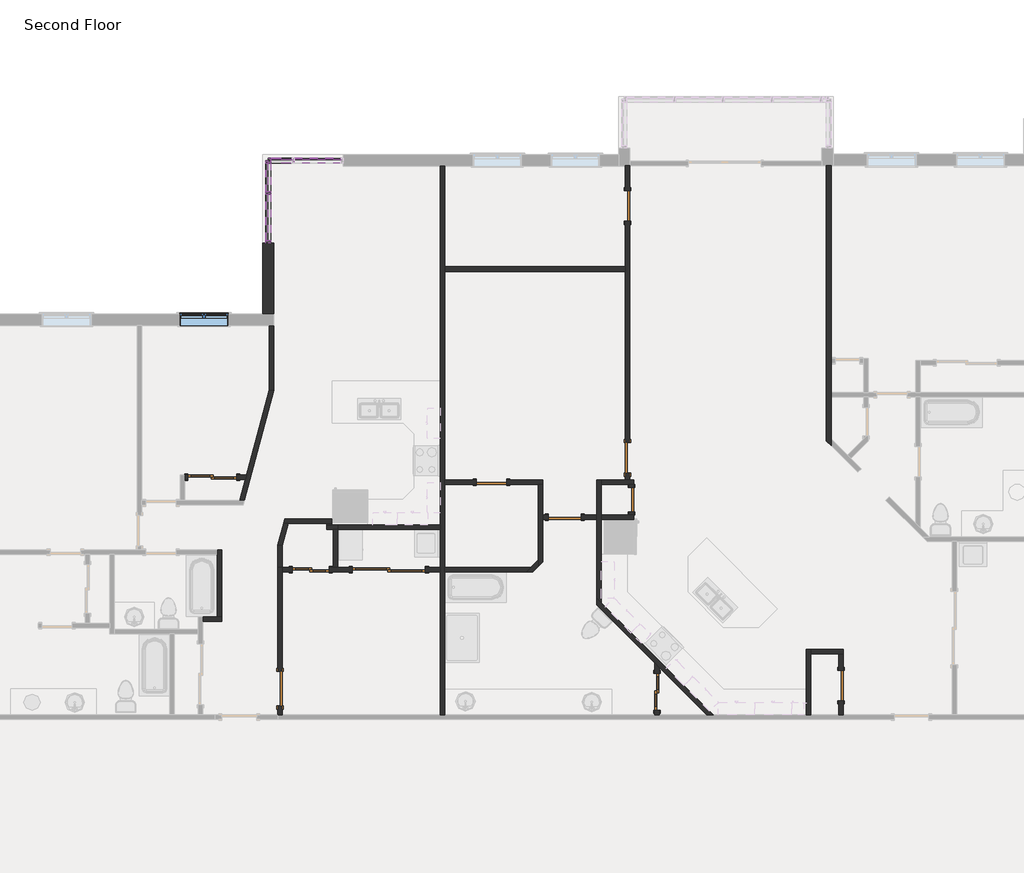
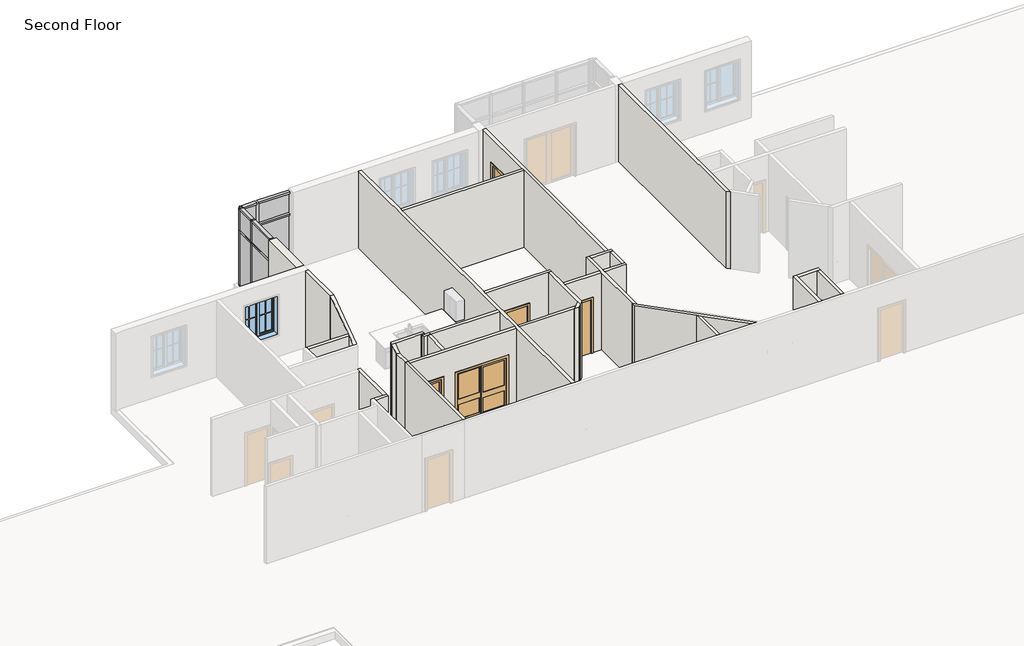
# One storey, part 9 of 17: 32 walls, 19 members, 11 doors, 8 plates, 1 window.
"""IFC4 building model written with IfcOpenShell, lengths in millimetres."""

from ifc_helpers import new_model, si_unit, frame, origin, place, context, project, spatial, polyline, outline, extrude, faceted_brep, transform, mapped, element, save
from components import door_e2285e44, door_d8f5dbb5, door_f2b275c1, door_d141acb4, door_c29894e6, door_88c23cd7, door_900f836f, door_caaf2a11, rectangular_mullion_rectangular_mullion_1_fa3625a1, rectangular_mullion_rectangular_mullion_1_7cbf0b94, rectangular_mullion_rectangular_mullion_1_a50b3cda, rectangular_mullion_rectangular_mullion_1_5cd4c5ac, rectangular_mullion_rectangular_mullion_1_6186cc23, rectangular_mullion_rectangular_mullion_1_049a2e78, rectangular_mullion_rectangular_mullion_1_13524bf9, rectangular_mullion_rectangular_mullion_1_a1888574, rectangular_mullion_rectangular_mullion_1_55d4f6ce, rectangular_mullion_rectangular_mullion_1_d8cc73e0, system_panel_glazed_0ed27d1d, system_panel_glazed_134bacdb, system_panel_glazed_53e6f9fb, system_panel_glazed_cb820e14, system_panel_glazed_7c98c5cb, system_panel_glazed_dc3c0d95, system_panel_glazed_bae44e10, system_panel_glazed_9feb64c3, window_33528cc2

model = new_model("IFC4")

# Units and contexts
model_context = context("Model", 3, world=origin())
ifc_project = project(units=[si_unit("LENGTHUNIT", "METRE", prefix="MILLI")], contexts=[model_context])

# Site, building, storey
site = spatial("IfcSite", under=ifc_project)
building = spatial("IfcBuilding", under=site)
storey = spatial("IfcBuildingStorey", under=building, Name="Second Floor", Elevation=3048.0)

# Doors
placement = place(None, origin())
door_shape = door_e2285e44(model_context)
element("IfcDoor", 1, ObjectType="Single-Flush : 24\" x 80\"", at=placement, inside=storey, context=model_context, shape_type="MappedRepresentation", body=[
    mapped(door_shape, transform((26745.480585, 7734.3572102, 3048.0), x_axis=(0.0, 1.0, 0.0), y_axis=(-1.0, 0.0, 0.0), z_axis=(0.0, 0.0, 1.0))),
])
door_2_shape = door_d8f5dbb5(model_context)
element("IfcDoor", 2, ObjectType="Single-Flush : 30\" x 80\"", at=placement, inside=storey, context=model_context, shape_type="MappedRepresentation", body=[
    mapped(door_2_shape, transform((23246.1202044, 8168.006996, 3048.0), x_axis=(-1.0, 0.0, 0.0), y_axis=(0.0, -1.0, 0.0), z_axis=(0.0, 0.0, 1.0))),
])
element("IfcDoor", 3, ObjectType="Single-Flush : 30\" x 80\"", at=placement, inside=storey, context=model_context, shape_type="MappedRepresentation", body=[
    mapped(door_2_shape, transform((31977.0076897, 3089.6091714, 3048.0), x_axis=(0.0, -1.0, 0.0), y_axis=(1.0, 0.0, 0.0), z_axis=(0.0, 0.0, 1.0))),
])
door_3_shape = door_f2b275c1(model_context)
element("IfcDoor", 4, ObjectType="Single-Flush : 30\" x 80\"", at=placement, inside=storey, context=model_context, shape_type="MappedRepresentation", body=[
    mapped(door_3_shape, transform((26645.8573571, 8777.606996, 3048.0), x_axis=(0.0, -1.0, 0.0), y_axis=(1.0, 0.0, 0.0), z_axis=(0.0, 0.0, 1.0))),
])
element("IfcDoor", 5, ObjectType="Single-Flush : 30\" x 80\"", at=placement, inside=storey, context=model_context, shape_type="MappedRepresentation", body=[
    mapped(door_3_shape, transform((26645.8573571, 15067.4365339, 3048.0), x_axis=(0.0, 1.0, 0.0), y_axis=(-1.0, 0.0, 0.0), z_axis=(0.0, 0.0, 1.0))),
])
door_4_shape = door_d141acb4(model_context)
element("IfcDoor", 6, ObjectType="Single-Flush : 32\" x 84\"", at=placement, inside=storey, context=model_context, shape_type="MappedRepresentation", body=[
    mapped(door_4_shape, transform((25078.7830518, 7300.7074244, 3048.0), x_axis=(-1.0, 0.0, 0.0), y_axis=(0.0, -1.0, 0.0), z_axis=(0.0, 0.0, 1.0))),
])
door_5_shape = door_c29894e6(model_context)
element("IfcDoor", 7, ObjectType="Single-Flush : 34\" x 80\"", at=placement, inside=storey, context=model_context, shape_type="MappedRepresentation", body=[
    mapped(door_5_shape, transform((17970.6993195, 3013.4091714, 3048.0), x_axis=(0.0, -1.0, 0.0), y_axis=(1.0, 0.0, 0.0), z_axis=(0.0, 0.0, 1.0))),
])
door_6_shape = door_88c23cd7(model_context)
element("IfcDoor", 8, ObjectType="Sliding-Closet : 36\" x 80\"", at=placement, inside=storey, context=model_context, shape_type="MappedRepresentation", body=[
    mapped(door_6_shape, transform((18737.6267988, 6113.0380642, 3048.0), x_axis=(-1.0, 0.0, 0.0), y_axis=(0.0, -1.0, 0.0), z_axis=(0.0, 0.0, 1.0))),
])
element("IfcDoor", 9, ObjectType="Sliding-Closet : 36\" x 80\"", at=placement, inside=storey, context=model_context, shape_type="MappedRepresentation", body=[
    mapped(door_6_shape, transform((27511.15388, 2937.2091714, 3048.0), x_axis=(0.0, 1.0, 0.0), y_axis=(-1.0, 0.0, 0.0), z_axis=(0.0, 0.0, 1.0))),
])
door_7_shape = door_900f836f(model_context)
element("IfcDoor", 10, ObjectType="Sliding-Closet : 48\" x 80\"", at=placement, inside=storey, context=model_context, shape_type="MappedRepresentation", body=[
    mapped(door_7_shape, transform((16278.4083594, 8170.5576127, 3048.0), x_axis=(1.0, 0.0, 0.0), y_axis=(0.0, 1.0, 0.0), z_axis=(0.0, 0.0, 1.0))),
])
door_8_shape = door_caaf2a11(model_context)
element("IfcDoor", 11, ObjectType="Sliding-Closet : 72\" x 80\"", at=placement, inside=storey, context=model_context, shape_type="MappedRepresentation", body=[
    mapped(door_8_shape, transform((20687.6058176, 6113.0380642, 3048.0), x_axis=(-1.0, 0.0, 0.0), y_axis=(0.0, -1.0, 0.0), z_axis=(0.0, 0.0, 1.0))),
])

# Members
rectangular_mullion_rectangular_mullion_1_shape = rectangular_mullion_rectangular_mullion_1_fa3625a1(model_context)
element("IfcMember", 12, ObjectType="Rectangular Mullion : Rectangular Mullion 1", at=placement, inside=storey, context=model_context, shape_type="MappedRepresentation", body=[
    mapped(rectangular_mullion_rectangular_mullion_1_shape, transform((18332.1198568, 16206.4791823, 6096.0), x_axis=(0.0, 0.0, 1.0), y_axis=(0.0, 1.0, 0.0), z_axis=(-1.0, 0.0, 0.0))),
])
rectangular_mullion_rectangular_mullion_1_2_shape = rectangular_mullion_rectangular_mullion_1_7cbf0b94(model_context)
element("IfcMember", 13, ObjectType="Rectangular Mullion : Rectangular Mullion 1", at=placement, inside=storey, context=model_context, shape_type="MappedRepresentation", body=[
    mapped(rectangular_mullion_rectangular_mullion_1_2_shape, transform((18332.1198568, 16206.4791823, 5213.35), x_axis=(0.0, 0.0, 1.0), y_axis=(0.0, 1.0, 0.0), z_axis=(-1.0, 0.0, 0.0))),
])
rectangular_mullion_rectangular_mullion_1_3_shape = rectangular_mullion_rectangular_mullion_1_a50b3cda(model_context)
element("IfcMember", 14, ObjectType="Rectangular Mullion : Rectangular Mullion 1", at=placement, inside=storey, context=model_context, shape_type="MappedRepresentation", body=[
    mapped(rectangular_mullion_rectangular_mullion_1_3_shape, transform((17678.8246608, 16206.4791823, 3048.0), x_axis=(-1.0, 0.0, 0.0), y_axis=(0.0, 1.0, 0.0), z_axis=(0.0, 0.0, -1.0))),
])
rectangular_mullion_rectangular_mullion_1_4_shape = rectangular_mullion_rectangular_mullion_1_5cd4c5ac(model_context)
element("IfcMember", 15, ObjectType="Rectangular Mullion : Rectangular Mullion 1", at=placement, inside=storey, context=model_context, shape_type="MappedRepresentation", body=[
    mapped(rectangular_mullion_rectangular_mullion_1_4_shape, transform((17678.8246608, 16206.4791823, 5213.35), x_axis=(-1.0, 0.0, 0.0), y_axis=(0.0, 1.0, 0.0), z_axis=(0.0, 0.0, -1.0))),
])
element("IfcMember", 16, ObjectType="Rectangular Mullion : Rectangular Mullion 1", at=placement, inside=storey, context=model_context, shape_type="MappedRepresentation", body=[
    mapped(rectangular_mullion_rectangular_mullion_1_shape, transform((17678.8246608, 15365.3662252, 6096.0), x_axis=(0.0, 0.0, 1.0), y_axis=(1.0, 0.0, 0.0), z_axis=(0.0, 1.0, 0.0))),
])
element("IfcMember", 17, ObjectType="Rectangular Mullion : Rectangular Mullion 1", at=placement, inside=storey, context=model_context, shape_type="MappedRepresentation", body=[
    mapped(rectangular_mullion_rectangular_mullion_1_shape, transform((17678.8246608, 14209.6662249, 3048.0), x_axis=(0.0, 0.0, -1.0), y_axis=(1.0, 0.0, 0.0), z_axis=(0.0, -1.0, 0.0))),
])
element("IfcMember", 18, ObjectType="Rectangular Mullion : Rectangular Mullion 1", at=placement, inside=storey, context=model_context, shape_type="MappedRepresentation", body=[
    mapped(rectangular_mullion_rectangular_mullion_1_3_shape, transform((17678.8246608, 16206.4791823, 3048.0), x_axis=(0.0, 1.0, 0.0), y_axis=(1.0, 0.0, 0.0), z_axis=(0.0, 0.0, -1.0))),
])
element("IfcMember", 19, ObjectType="Rectangular Mullion : Rectangular Mullion 1", at=placement, inside=storey, context=model_context, shape_type="MappedRepresentation", body=[
    mapped(rectangular_mullion_rectangular_mullion_1_4_shape, transform((17678.8246608, 16206.4791823, 5213.35), x_axis=(0.0, 1.0, 0.0), y_axis=(1.0, 0.0, 0.0), z_axis=(0.0, 0.0, -1.0))),
])
element("IfcMember", 20, ObjectType="Rectangular Mullion : Rectangular Mullion 1", at=placement, inside=storey, context=model_context, shape_type="MappedRepresentation", body=[
    mapped(rectangular_mullion_rectangular_mullion_1_4_shape, transform((17678.8246608, 14146.1662249, 6096.0), x_axis=(0.0, -1.0, 0.0), y_axis=(1.0, 0.0, 0.0), z_axis=(0.0, 0.0, 1.0))),
])
element("IfcMember", 21, ObjectType="Rectangular Mullion : Rectangular Mullion 1", at=placement, inside=storey, context=model_context, shape_type="MappedRepresentation", body=[
    mapped(rectangular_mullion_rectangular_mullion_1_3_shape, transform((17678.8246608, 14146.1662249, 5213.35), x_axis=(0.0, -1.0, 0.0), y_axis=(1.0, 0.0, 0.0), z_axis=(0.0, 0.0, 1.0))),
])
element("IfcMember", 22, ObjectType="Rectangular Mullion : Rectangular Mullion 1", at=placement, inside=storey, context=model_context, shape_type="MappedRepresentation", body=[
    mapped(rectangular_mullion_rectangular_mullion_1_2_shape, transform((17678.8246608, 15365.3662252, 5213.35), x_axis=(0.0, 0.0, 1.0), y_axis=(1.0, 0.0, 0.0), z_axis=(0.0, 1.0, 0.0))),
])
rectangular_mullion_rectangular_mullion_1_5_shape = rectangular_mullion_rectangular_mullion_1_6186cc23(model_context)
element("IfcMember", 23, ObjectType="Rectangular Mullion : Rectangular Mullion 1", at=placement, inside=storey, context=model_context, shape_type="MappedRepresentation", body=[
    mapped(rectangular_mullion_rectangular_mullion_1_5_shape, transform((17678.8246608, 15397.1162252, 3048.0), x_axis=(0.0, 1.0, 0.0), y_axis=(1.0, 0.0, 0.0), z_axis=(0.0, 0.0, -1.0))),
])
rectangular_mullion_rectangular_mullion_1_6_shape = rectangular_mullion_rectangular_mullion_1_049a2e78(model_context)
element("IfcMember", 24, ObjectType="Rectangular Mullion : Rectangular Mullion 1", at=placement, inside=storey, context=model_context, shape_type="MappedRepresentation", body=[
    mapped(rectangular_mullion_rectangular_mullion_1_6_shape, transform((17678.8246608, 15397.1162252, 5213.35), x_axis=(0.0, 1.0, 0.0), y_axis=(1.0, 0.0, 0.0), z_axis=(0.0, 0.0, -1.0))),
])
rectangular_mullion_rectangular_mullion_1_7_shape = rectangular_mullion_rectangular_mullion_1_13524bf9(model_context)
element("IfcMember", 25, ObjectType="Rectangular Mullion : Rectangular Mullion 1", at=placement, inside=storey, context=model_context, shape_type="MappedRepresentation", body=[
    mapped(rectangular_mullion_rectangular_mullion_1_7_shape, transform((17678.8246608, 16142.9791823, 6096.0), x_axis=(0.0, 0.0, 1.0), y_axis=(1.0, 0.0, 0.0), z_axis=(0.0, 1.0, 0.0))),
])
element("IfcMember", 26, ObjectType="Rectangular Mullion : Rectangular Mullion 1", at=placement, inside=storey, context=model_context, shape_type="MappedRepresentation", body=[
    mapped(rectangular_mullion_rectangular_mullion_1_7_shape, transform((17678.8246608, 15428.8662252, 3048.0), x_axis=(0.0, 0.0, -1.0), y_axis=(1.0, 0.0, 0.0), z_axis=(0.0, -1.0, 0.0))),
])
rectangular_mullion_rectangular_mullion_1_8_shape = rectangular_mullion_rectangular_mullion_1_a1888574(model_context)
element("IfcMember", 27, ObjectType="Rectangular Mullion : Rectangular Mullion 1", at=placement, inside=storey, context=model_context, shape_type="MappedRepresentation", body=[
    mapped(rectangular_mullion_rectangular_mullion_1_8_shape, transform((17678.8246608, 16142.9791823, 5213.35), x_axis=(0.0, 0.0, 1.0), y_axis=(1.0, 0.0, 0.0), z_axis=(0.0, 1.0, 0.0))),
])
rectangular_mullion_rectangular_mullion_1_9_shape = rectangular_mullion_rectangular_mullion_1_55d4f6ce(model_context)
element("IfcMember", 28, ObjectType="Rectangular Mullion : Rectangular Mullion 1", at=placement, inside=storey, context=model_context, shape_type="MappedRepresentation", body=[
    mapped(rectangular_mullion_rectangular_mullion_1_9_shape, transform((17742.3246608, 16206.4791823, 6096.0), x_axis=(0.0, 0.0, 1.0), y_axis=(0.0, 1.0, 0.0), z_axis=(-1.0, 0.0, 0.0))),
])
element("IfcMember", 29, ObjectType="Rectangular Mullion : Rectangular Mullion 1", at=placement, inside=storey, context=model_context, shape_type="MappedRepresentation", body=[
    mapped(rectangular_mullion_rectangular_mullion_1_9_shape, transform((18268.6198568, 16206.4791823, 3048.0), x_axis=(0.0, 0.0, -1.0), y_axis=(0.0, 1.0, 0.0), z_axis=(1.0, 0.0, 0.0))),
])
rectangular_mullion_rectangular_mullion_1_10_shape = rectangular_mullion_rectangular_mullion_1_d8cc73e0(model_context)
element("IfcMember", 30, ObjectType="Rectangular Mullion : Rectangular Mullion 1", at=placement, inside=storey, context=model_context, shape_type="MappedRepresentation", body=[
    mapped(rectangular_mullion_rectangular_mullion_1_10_shape, transform((17742.3246608, 16206.4791823, 5213.35), x_axis=(0.0, 0.0, 1.0), y_axis=(0.0, 1.0, 0.0), z_axis=(-1.0, 0.0, 0.0))),
])

# Plates
system_panel_glazed_shape = system_panel_glazed_0ed27d1d(model_context)
element("IfcPlate", 31, ObjectType="System Panel : Glazed", at=placement, inside=storey, context=model_context, shape_type="MappedRepresentation", body=[
    mapped(system_panel_glazed_shape, transform((18909.969857, 16206.4791823, 3111.5), x_axis=(-1.0, 0.0, 0.0), y_axis=(0.0, -1.0, 0.0), z_axis=(0.0, 0.0, 1.0))),
])
system_panel_glazed_2_shape = system_panel_glazed_134bacdb(model_context)
element("IfcPlate", 32, ObjectType="System Panel : Glazed", at=placement, inside=storey, context=model_context, shape_type="MappedRepresentation", body=[
    mapped(system_panel_glazed_2_shape, transform((18909.969857, 16206.4791823, 5245.1), x_axis=(-1.0, 0.0, 0.0), y_axis=(0.0, -1.0, 0.0), z_axis=(0.0, 0.0, 1.0))),
])
system_panel_glazed_3_shape = system_panel_glazed_53e6f9fb(model_context)
element("IfcPlate", 33, ObjectType="System Panel : Glazed", at=placement, inside=storey, context=model_context, shape_type="MappedRepresentation", body=[
    mapped(system_panel_glazed_3_shape, transform((17678.8246608, 14787.5162251, 3111.5), x_axis=(0.0, 1.0, 0.0), y_axis=(-1.0, 0.0, 0.0), z_axis=(0.0, 0.0, 1.0))),
])
system_panel_glazed_4_shape = system_panel_glazed_cb820e14(model_context)
element("IfcPlate", 34, ObjectType="System Panel : Glazed", at=placement, inside=storey, context=model_context, shape_type="MappedRepresentation", body=[
    mapped(system_panel_glazed_4_shape, transform((17678.8246608, 14787.5162251, 5245.1), x_axis=(0.0, 1.0, 0.0), y_axis=(-1.0, 0.0, 0.0), z_axis=(0.0, 0.0, 1.0))),
])
system_panel_glazed_5_shape = system_panel_glazed_7c98c5cb(model_context)
element("IfcPlate", 35, ObjectType="System Panel : Glazed", at=placement, inside=storey, context=model_context, shape_type="MappedRepresentation", body=[
    mapped(system_panel_glazed_5_shape, transform((17678.8246608, 15785.9227038, 3111.5), x_axis=(0.0, 1.0, 0.0), y_axis=(-1.0, 0.0, 0.0), z_axis=(0.0, 0.0, 1.0))),
])
system_panel_glazed_6_shape = system_panel_glazed_dc3c0d95(model_context)
element("IfcPlate", 36, ObjectType="System Panel : Glazed", at=placement, inside=storey, context=model_context, shape_type="MappedRepresentation", body=[
    mapped(system_panel_glazed_6_shape, transform((17678.8246608, 15785.9227038, 5245.1), x_axis=(0.0, 1.0, 0.0), y_axis=(-1.0, 0.0, 0.0), z_axis=(0.0, 0.0, 1.0))),
])
system_panel_glazed_7_shape = system_panel_glazed_bae44e10(model_context)
element("IfcPlate", 37, ObjectType="System Panel : Glazed", at=placement, inside=storey, context=model_context, shape_type="MappedRepresentation", body=[
    mapped(system_panel_glazed_7_shape, transform((18005.4722588, 16206.4791823, 3111.5), x_axis=(-1.0, 0.0, 0.0), y_axis=(0.0, -1.0, 0.0), z_axis=(0.0, 0.0, 1.0))),
])
system_panel_glazed_8_shape = system_panel_glazed_9feb64c3(model_context)
element("IfcPlate", 38, ObjectType="System Panel : Glazed", at=placement, inside=storey, context=model_context, shape_type="MappedRepresentation", body=[
    mapped(system_panel_glazed_8_shape, transform((18005.4722588, 16206.4791823, 5245.1), x_axis=(-1.0, 0.0, 0.0), y_axis=(0.0, -1.0, 0.0), z_axis=(0.0, 0.0, 1.0))),
])

# Walls
element("IfcWall", 39, ObjectType="Exterior - Brick on Wood Stud", at=placement, inside=storey, context=model_context, shape_type="SweptSolid", body=[
    extrude(outline(polyline([(17537.5371608, 12370.2302849), (17537.5371608, 14146.1662249), (17820.1121608, 14146.1662249), (17820.1121608, 12370.2302849), (17537.5371608, 12370.2302849)])), frame((0.0, 0.0, 3048.0), z_axis=(0.0, 0.0, 1.0), x_axis=(1.0, 0.0, 0.0)), (0.0, 0.0, 1.0), 3048.0),
])
element("IfcWall", 40, ObjectType="Interior - 4 1/2\" Partition", at=placement, inside=storey, context=model_context, shape_type="Brep", body=[
    faceted_brep([(22080.2073571, 2359.3591714, 3048.0), (22080.2073571, 5928.8880642, 3048.0), (22080.2073571, 6043.1880642, 3048.0), (22080.2073571, 8110.856996, 3048.0), (22080.2073571, 8225.156996, 3048.0), (22080.2073571, 13435.7238431, 3048.0), (22080.2073571, 13550.0238431, 3048.0), (22080.2073571, 16065.1916823, 3048.0), (22080.2073571, 16065.1916823, 6096.0), (22080.2073571, 13550.0238431, 6096.0), (22080.2073571, 13435.7238431, 6096.0), (22080.2073571, 8225.156996, 6096.0), (22080.2073571, 8110.856996, 6096.0), (22080.2073571, 6043.1880642, 6096.0), (22080.2073571, 5928.8880642, 6096.0), (22080.2073571, 2359.3591714, 6096.0), (21965.9073571, 2359.3591714, 3048.0), (21965.9073571, 2359.3591714, 6096.0), (21965.9073571, 5928.8880642, 6096.0), (21965.9073571, 6043.1880642, 6096.0), (21965.9073571, 6988.905075, 6096.0), (21965.9073571, 7103.205075, 6096.0), (21965.9073571, 16065.1916823, 6096.0), (21965.9073571, 16065.1916823, 3048.0), (21965.9073571, 7103.205075, 3048.0), (21965.9073571, 6988.905075, 3048.0), (21965.9073571, 6043.1880642, 3048.0), (21965.9073571, 5928.8880642, 3048.0)], [[[0, 1, 2, 3, 4, 5, 6, 7, 8, 9, 10, 11, 12, 13, 14, 15]], [[16, 17, 18, 19, 20, 21, 22, 23, 24, 25, 26, 27]], [[7, 6, 5, 4, 3, 2, 1, 0, 16, 27, 26, 25, 24, 23]], [[15, 14, 13, 12, 11, 10, 9, 8, 22, 21, 20, 19, 18, 17]], [[0, 15, 17, 16]], [[8, 7, 23, 22]]]),
])
element("IfcWall", 41, ObjectType="Interior - 4 1/2\" Partition", at=placement, inside=storey, context=model_context, shape_type="Brep", body=[
    faceted_brep([(31724.597822, 9089.3944324, 3048.0), (31724.597822, 9251.0390425, 3048.0), (31724.597822, 10300.8410099, 3048.0), (31724.597822, 10415.1410099, 3048.0), (31724.597822, 11149.7238431, 3048.0), (31724.597822, 11264.0238431, 3048.0), (31724.597822, 16077.0865339, 3048.0), (31724.597822, 16077.0865339, 6096.0), (31724.597822, 11264.0238431, 6096.0), (31724.597822, 11149.7238431, 6096.0), (31724.597822, 10415.1410099, 6096.0), (31724.597822, 10300.8410099, 6096.0), (31724.597822, 9251.0390425, 6096.0), (31724.597822, 9089.3944324, 6096.0), (31610.297822, 9203.6944324, 3048.0), (31610.297822, 9203.6944324, 6096.0), (31610.297822, 16077.0865339, 6096.0), (31610.297822, 16077.0865339, 3048.0)], [[[0, 1, 2, 3, 4, 5, 6, 7, 8, 9, 10, 11, 12, 13]], [[14, 15, 16, 17]], [[6, 5, 4, 3, 2, 1, 0, 14, 17]], [[13, 12, 11, 10, 9, 8, 7, 16, 15]], [[0, 13, 15, 14]], [[7, 6, 17, 16]]]),
])
element("IfcWall", 42, ObjectType="Interior - 4 1/2\" Partition", at=placement, inside=storey, context=model_context, shape_type="SweptSolid", body=[
    extrude(outline(polyline([(26588.7073571, 13435.7238431), (22080.2073571, 13435.7238431), (22080.2073571, 13550.0238431), (26588.7073571, 13550.0238431), (26588.7073571, 13435.7238431)])), frame((0.0, 0.0, 3048.0), z_axis=(0.0, 0.0, 1.0), x_axis=(1.0, 0.0, 0.0)), (0.0, 0.0, 1.0), 3048.0),
])
element("IfcWall", 43, ObjectType="Interior - 4 1/2\" Partition", at=placement, inside=storey, context=model_context, shape_type="Brep", body=[
    faceted_brep([(26703.0073571, 15448.4365339, 5080.0), (26703.0073571, 15448.4365339, 3048.0), (26703.0073571, 16077.0865339, 3048.0), (26703.0073571, 16077.0865339, 6096.0), (26703.0073571, 8225.156996, 6096.0), (26703.0073571, 8225.156996, 3048.0), (26703.0073571, 8396.606996, 3048.0), (26703.0073571, 8396.606996, 5080.0), (26703.0073571, 9158.606996, 5080.0), (26703.0073571, 9158.606996, 3048.0), (26703.0073571, 14686.4365339, 3048.0), (26703.0073571, 14686.4365339, 5080.0), (26588.7073571, 16077.0865339, 3048.0), (26588.7073571, 15448.4365339, 3048.0), (26588.7073571, 15448.4365339, 5080.0), (26588.7073571, 14686.4365339, 5080.0), (26588.7073571, 14686.4365339, 3048.0), (26588.7073571, 13550.0238431, 3048.0), (26588.7073571, 13435.7238431, 3048.0), (26588.7073571, 9158.606996, 3048.0), (26588.7073571, 9158.606996, 5080.0), (26588.7073571, 8396.606996, 5080.0), (26588.7073571, 8396.606996, 3048.0), (26588.7073571, 8225.156996, 3048.0), (26588.7073571, 8225.156996, 6096.0), (26588.7073571, 13435.7238431, 6096.0), (26588.7073571, 13550.0238431, 6096.0), (26588.7073571, 16077.0865339, 6096.0)], [[[0, 1, 2, 3, 4, 5, 6, 7, 8, 9, 10, 11]], [[12, 13, 14, 15, 16, 17, 18, 19, 20, 21, 22, 23, 24, 25, 26, 27]], [[23, 22, 6, 5]], [[10, 9, 19, 18, 17, 16]], [[2, 1, 13, 12]], [[4, 3, 27, 26, 25, 24]], [[7, 6, 22, 21]], [[8, 7, 21, 20]], [[9, 8, 20, 19]], [[14, 13, 1, 0]], [[15, 14, 0, 11]], [[16, 15, 11, 10]], [[5, 4, 24, 23]], [[3, 2, 12, 27]]]),
])
element("IfcWall", 44, ObjectType="Interior - 4 1/2\" Partition", at=placement, inside=storey, context=model_context, shape_type="Brep", body=[
    faceted_brep([(25879.20388, 5101.9499009, 3048.0), (27327.00388, 3654.1499009, 3048.0), (27441.30388, 3539.8499009, 3048.0), (28621.7946095, 2359.3591714, 3048.0), (28621.7946095, 2359.3591714, 6096.0), (27441.30388, 3539.8499009, 6096.0), (27327.00388, 3654.1499009, 6096.0), (25879.20388, 5101.9499009, 6096.0), (25879.20388, 5263.5945111, 3048.0), (25879.20388, 5263.5945111, 6096.0), (25993.50388, 5149.2945111, 6096.0), (28783.4392197, 2359.3591714, 6096.0), (28783.4392197, 2359.3591714, 3048.0), (25993.50388, 5149.2945111, 3048.0)], [[[0, 1, 2, 3, 4, 5, 6, 7]], [[8, 9, 10, 11, 12, 13]], [[3, 2, 1, 0, 8, 13, 12]], [[7, 6, 5, 4, 11, 10, 9]], [[0, 7, 9, 8]], [[4, 3, 12, 11]]]),
])
element("IfcWall", 45, ObjectType="Interior - 4 1/2\" Partition", at=placement, inside=storey, context=model_context, shape_type="Brep", body=[
    faceted_brep([(25879.20388, 8225.156996, 3048.0), (25879.20388, 7357.8574244, 3048.0), (25879.20388, 7243.5574244, 3048.0), (25879.20388, 5263.5945111, 3048.0), (25879.20388, 5263.5945111, 6096.0), (25879.20388, 7243.5574244, 6096.0), (25879.20388, 7357.8574244, 6096.0), (25879.20388, 8225.156996, 6096.0), (25993.50388, 8225.156996, 3048.0), (25993.50388, 8225.156996, 6096.0), (25993.50388, 8110.856996, 6096.0), (25993.50388, 7357.8574244, 6096.0), (25993.50388, 7243.5574244, 6096.0), (25993.50388, 5149.2945111, 6096.0), (25993.50388, 5149.2945111, 3048.0), (25993.50388, 7243.5574244, 3048.0), (25993.50388, 7357.8574244, 3048.0), (25993.50388, 8110.856996, 3048.0)], [[[0, 1, 2, 3, 4, 5, 6, 7]], [[8, 9, 10, 11, 12, 13, 14, 15, 16, 17]], [[3, 2, 1, 0, 8, 17, 16, 15, 14]], [[7, 6, 5, 4, 13, 12, 11, 10, 9]], [[0, 7, 9, 8]], [[4, 3, 14, 13]]]),
])
element("IfcWall", 46, ObjectType="Interior - 4 1/2\" Partition", at=placement, inside=storey, context=model_context, shape_type="Brep", body=[
    faceted_brep([(26802.630585, 8225.156996, 3048.0), (26703.0073571, 8225.156996, 3048.0), (26588.7073571, 8225.156996, 3048.0), (25993.50388, 8225.156996, 3048.0), (25993.50388, 8225.156996, 6096.0), (26588.7073571, 8225.156996, 6096.0), (26703.0073571, 8225.156996, 6096.0), (26802.630585, 8225.156996, 6096.0), (26802.630585, 8110.856996, 3048.0), (26802.630585, 8110.856996, 6096.0), (26688.330585, 8110.856996, 6096.0), (25993.50388, 8110.856996, 6096.0), (25993.50388, 8110.856996, 3048.0), (26688.330585, 8110.856996, 3048.0)], [[[0, 1, 2, 3, 4, 5, 6, 7]], [[8, 9, 10, 11, 12, 13]], [[3, 2, 1, 0, 8, 13, 12]], [[7, 6, 5, 4, 11, 10, 9]], [[0, 7, 9, 8]], [[4, 3, 12, 11]]]),
])
element("IfcWall", 47, ObjectType="Interior - 4 1/2\" Partition", at=placement, inside=storey, context=model_context, shape_type="Brep", body=[
    faceted_brep([(24672.3830518, 7243.5574244, 3048.0), (24672.3830518, 7243.5574244, 5181.6), (25485.1830518, 7243.5574244, 5181.6), (25485.1830518, 7243.5574244, 3048.0), (25879.20388, 7243.5574244, 3048.0), (25879.20388, 7243.5574244, 6096.0), (24526.3330518, 7243.5574244, 6096.0), (24526.3330518, 7243.5574244, 3048.0), (24672.3830518, 7357.8574244, 5181.6), (24672.3830518, 7357.8574244, 3048.0), (24526.3330518, 7357.8574244, 3048.0), (24526.3330518, 7357.8574244, 6096.0), (25879.20388, 7357.8574244, 6096.0), (25879.20388, 7357.8574244, 3048.0), (25485.1830518, 7357.8574244, 3048.0), (25485.1830518, 7357.8574244, 5181.6)], [[[0, 1, 2, 3, 4, 5, 6, 7]], [[8, 9, 10, 11, 12, 13, 14, 15]], [[9, 0, 7, 10]], [[3, 14, 13, 4]], [[11, 6, 5, 12]], [[1, 0, 9, 8]], [[2, 1, 8, 15]], [[3, 2, 15, 14]], [[7, 6, 11, 10]], [[5, 4, 13, 12]]]),
    faceted_brep([(26802.630585, 7243.5574244, 3048.0), (26802.630585, 7243.5574244, 6096.0), (25993.50388, 7243.5574244, 6096.0), (25993.50388, 7243.5574244, 3048.0), (26802.630585, 7357.8574244, 6096.0), (26802.630585, 7357.8574244, 3048.0), (26688.330585, 7357.8574244, 3048.0), (25993.50388, 7357.8574244, 3048.0), (25993.50388, 7357.8574244, 6096.0), (26688.330585, 7357.8574244, 6096.0)], [[[0, 1, 2, 3]], [[4, 5, 6, 7, 8, 9]], [[5, 0, 3, 7, 6]], [[1, 4, 9, 8, 2]], [[1, 0, 5, 4]], [[3, 2, 8, 7]]]),
])
element("IfcWall", 48, ObjectType="Interior - 4 1/2\" Partition", at=placement, inside=storey, context=model_context, shape_type="SweptSolid", body=[
    extrude(outline(polyline([(8110.856996, 3048.0), (8039.1572102, 3048.0), (8039.1572102, 5080.0), (7429.5572102, 5080.0), (7429.5572102, 3048.0), (7357.8574244, 3048.0), (7357.8574244, 6096.0), (8110.856996, 6096.0), (8110.856996, 3048.0)])), frame((26688.330585, 0.0, 0.0), z_axis=(1.0, 0.0, 0.0), x_axis=(0.0, 1.0, 0.0)), (0.0, 0.0, 1.0), 114.3),
])
element("IfcWall", 49, ObjectType="Interior - 4 1/2\" Partition", at=placement, inside=storey, context=model_context, shape_type="Brep", body=[
    faceted_brep([(22080.2073571, 8110.856996, 3048.0), (22865.1202044, 8110.856996, 3048.0), (22865.1202044, 8110.856996, 5080.0), (23627.1202044, 8110.856996, 5080.0), (23627.1202044, 8110.856996, 3048.0), (24412.0330518, 8110.856996, 3048.0), (24526.3330518, 8110.856996, 3048.0), (24526.3330518, 8110.856996, 6096.0), (24412.0330518, 8110.856996, 6096.0), (22080.2073571, 8110.856996, 6096.0), (22865.1202044, 8225.156996, 5080.0), (22865.1202044, 8225.156996, 3048.0), (22080.2073571, 8225.156996, 3048.0), (22080.2073571, 8225.156996, 6096.0), (24526.3330518, 8225.156996, 6096.0), (24526.3330518, 8225.156996, 3048.0), (23627.1202044, 8225.156996, 3048.0), (23627.1202044, 8225.156996, 5080.0)], [[[0, 1, 2, 3, 4, 5, 6, 7, 8, 9]], [[10, 11, 12, 13, 14, 15, 16, 17]], [[16, 15, 6, 5, 4]], [[12, 11, 1, 0]], [[9, 8, 7, 14, 13]], [[2, 1, 11, 10]], [[3, 2, 10, 17]], [[4, 3, 17, 16]], [[7, 6, 15, 14]], [[0, 9, 13, 12]]]),
])
element("IfcWall", 50, ObjectType="Interior - 4 1/2\" Partition", at=placement, inside=storey, context=model_context, shape_type="Brep", body=[
    faceted_brep([(24412.0330518, 8110.856996, 3048.0), (24412.0330518, 6225.2365161, 3048.0), (24412.0330518, 6063.591906, 3048.0), (24412.0330518, 6063.591906, 6096.0), (24412.0330518, 6225.2365161, 6096.0), (24412.0330518, 8110.856996, 6096.0), (24526.3330518, 8110.856996, 3048.0), (24526.3330518, 8110.856996, 6096.0), (24526.3330518, 7357.8574244, 6096.0), (24526.3330518, 7243.5574244, 6096.0), (24526.3330518, 6177.891906, 6096.0), (24526.3330518, 6177.891906, 3048.0), (24526.3330518, 7243.5574244, 3048.0), (24526.3330518, 7357.8574244, 3048.0)], [[[0, 1, 2, 3, 4, 5]], [[6, 7, 8, 9, 10, 11, 12, 13]], [[2, 1, 0, 6, 13, 12, 11]], [[5, 4, 3, 10, 9, 8, 7]], [[3, 2, 11, 10]], [[0, 5, 7, 6]]]),
])
element("IfcWall", 51, ObjectType="Interior - 4 1/2\" Partition", at=placement, inside=storey, context=model_context, shape_type="Brep", body=[
    faceted_brep([(24412.0330518, 6225.2365161, 3048.0), (24229.9845998, 6043.1880642, 3048.0), (24115.6845998, 5928.8880642, 3048.0), (24115.6845998, 5928.8880642, 6096.0), (24229.9845998, 6043.1880642, 6096.0), (24412.0330518, 6225.2365161, 6096.0), (24412.0330518, 6063.591906, 3048.0), (24412.0330518, 6063.591906, 6096.0), (24277.3292099, 5928.8880642, 6096.0), (24277.3292099, 5928.8880642, 3048.0)], [[[0, 1, 2, 3, 4, 5]], [[6, 7, 8, 9]], [[2, 1, 0, 6, 9]], [[5, 4, 3, 8, 7]], [[3, 2, 9, 8]], [[0, 5, 7, 6]]]),
])
element("IfcWall", 52, ObjectType="Interior - 4 1/2\" Partition", at=placement, inside=storey, context=model_context, shape_type="SweptSolid", body=[
    extrude(outline(polyline([(22080.2073571, 6043.1880642), (24229.9845998, 6043.1880642), (24115.6845998, 5928.8880642), (22080.2073571, 5928.8880642), (22080.2073571, 6043.1880642)])), frame((0.0, 0.0, 3048.0), z_axis=(0.0, 0.0, 1.0), x_axis=(1.0, 0.0, 0.0)), (0.0, 0.0, 1.0), 3048.0),
])
element("IfcWall", 53, ObjectType="Interior - 4 1/2\" Partition", at=placement, inside=storey, context=model_context, shape_type="Brep", body=[
    faceted_brep([(31221.3576897, 2359.3591714, 3048.0), (31221.3576897, 3878.5301459, 3048.0), (31221.3576897, 3992.8301459, 3048.0), (31221.3576897, 3992.8301459, 6096.0), (31221.3576897, 3878.5301459, 6096.0), (31221.3576897, 2359.3591714, 6096.0), (31107.0576897, 2359.3591714, 3048.0), (31107.0576897, 2359.3591714, 6096.0), (31107.0576897, 3992.8301459, 6096.0), (31107.0576897, 3992.8301459, 3048.0)], [[[0, 1, 2, 3, 4, 5]], [[6, 7, 8, 9]], [[2, 1, 0, 6, 9]], [[5, 4, 3, 8, 7]], [[3, 2, 9, 8]], [[0, 5, 7, 6]]]),
])
element("IfcWall", 54, ObjectType="Interior - 4 1/2\" Partition", at=placement, inside=storey, context=model_context, shape_type="Brep", body=[
    faceted_brep([(31221.3576897, 3878.5301459, 3048.0), (31919.8576897, 3878.5301459, 3048.0), (32034.1576897, 3878.5301459, 3048.0), (32034.1576897, 3878.5301459, 6096.0), (31919.8576897, 3878.5301459, 6096.0), (31221.3576897, 3878.5301459, 6096.0), (31221.3576897, 3992.8301459, 3048.0), (31221.3576897, 3992.8301459, 6096.0), (32034.1576897, 3992.8301459, 6096.0), (32034.1576897, 3992.8301459, 3048.0)], [[[0, 1, 2, 3, 4, 5]], [[6, 7, 8, 9]], [[2, 1, 0, 6, 9]], [[5, 4, 3, 8, 7]], [[3, 2, 9, 8]], [[0, 5, 7, 6]]]),
])
element("IfcWall", 55, ObjectType="Interior - 4 1/2\" Partition", at=placement, inside=storey, context=model_context, shape_type="SweptSolid", body=[
    extrude(outline(polyline([(2708.6091714, 5080.0), (2708.6091714, 3048.0), (2359.3591714, 3048.0), (2359.3591714, 6096.0), (3878.5301459, 6096.0), (3878.5301459, 3048.0), (3470.6091714, 3048.0), (3470.6091714, 5080.0), (2708.6091714, 5080.0)])), frame((31919.8576897, 0.0, 0.0), z_axis=(1.0, 0.0, 0.0), x_axis=(0.0, 1.0, 0.0)), (0.0, 0.0, 1.0), 114.3),
])
element("IfcWall", 56, ObjectType="Interior - 4 1/2\" Partition", at=placement, inside=storey, context=model_context, shape_type="Brep", body=[
    faceted_brep([(18027.8493195, 2359.3591714, 3048.0), (18027.8493195, 2581.6091714, 3048.0), (18027.8493195, 2581.6091714, 5080.0), (18027.8493195, 3445.2091714, 5080.0), (18027.8493195, 3445.2091714, 3048.0), (18027.8493195, 5928.8880642, 3048.0), (18027.8493195, 6043.1880642, 3048.0), (18027.8493195, 6043.1880642, 6096.0), (18027.8493195, 5928.8880642, 6096.0), (18027.8493195, 2359.3591714, 6096.0), (17913.5493195, 2581.6091714, 5080.0), (17913.5493195, 2581.6091714, 3048.0), (17913.5493195, 2359.3591714, 3048.0), (17913.5493195, 2359.3591714, 6096.0), (17913.5493195, 6043.1880642, 6096.0), (17913.5493195, 6043.1880642, 3048.0), (17913.5493195, 3445.2091714, 3048.0), (17913.5493195, 3445.2091714, 5080.0)], [[[0, 1, 2, 3, 4, 5, 6, 7, 8, 9]], [[10, 11, 12, 13, 14, 15, 16, 17]], [[16, 15, 6, 5, 4]], [[12, 11, 1, 0]], [[9, 8, 7, 14, 13]], [[2, 1, 11, 10]], [[3, 2, 10, 17]], [[4, 3, 17, 16]], [[7, 6, 15, 14]], [[0, 9, 13, 12]]]),
])
element("IfcWall", 57, ObjectType="Interior - 4 1/2\" Partition", at=placement, inside=storey, context=model_context, shape_type="Brep", body=[
    faceted_brep([(18027.8493195, 5928.8880642, 3048.0), (18280.4267988, 5928.8880642, 3048.0), (18280.4267988, 5928.8880642, 5080.0), (19194.8267988, 5928.8880642, 5080.0), (19194.8267988, 5928.8880642, 3048.0), (19773.2058176, 5928.8880642, 3048.0), (19773.2058176, 5928.8880642, 5080.0), (21602.0058176, 5928.8880642, 5080.0), (21602.0058176, 5928.8880642, 3048.0), (21965.9073571, 5928.8880642, 3048.0), (21965.9073571, 5928.8880642, 6096.0), (18027.8493195, 5928.8880642, 6096.0), (18280.4267988, 6043.1880642, 5080.0), (18280.4267988, 6043.1880642, 3048.0), (18027.8493195, 6043.1880642, 3048.0), (18027.8493195, 6043.1880642, 6096.0), (19295.0042781, 6043.1880642, 6096.0), (19409.3042781, 6043.1880642, 6096.0), (21965.9073571, 6043.1880642, 6096.0), (21965.9073571, 6043.1880642, 3048.0), (21602.0058176, 6043.1880642, 3048.0), (21602.0058176, 6043.1880642, 5080.0), (19773.2058176, 6043.1880642, 5080.0), (19773.2058176, 6043.1880642, 3048.0), (19409.3042781, 6043.1880642, 3048.0), (19295.0042781, 6043.1880642, 3048.0), (19194.8267988, 6043.1880642, 3048.0), (19194.8267988, 6043.1880642, 5080.0)], [[[0, 1, 2, 3, 4, 5, 6, 7, 8, 9, 10, 11]], [[12, 13, 14, 15, 16, 17, 18, 19, 20, 21, 22, 23, 24, 25, 26, 27]], [[20, 19, 9, 8]], [[14, 13, 1, 0]], [[26, 25, 24, 23, 5, 4]], [[11, 10, 18, 17, 16, 15]], [[8, 7, 21, 20]], [[6, 5, 23, 22]], [[7, 6, 22, 21]], [[4, 3, 27, 26]], [[2, 1, 13, 12]], [[3, 2, 12, 27]], [[0, 11, 15, 14]], [[10, 9, 19, 18]]]),
])
element("IfcWall", 58, ObjectType="Interior - 4 1/2\" Partition", at=placement, inside=storey, context=model_context, shape_type="SweptSolid", body=[
    extrude(outline(polyline([(18027.8493195, 6586.3590874), (18027.8493195, 6043.1880642), (17913.5493195, 6043.1880642), (17913.5493195, 6601.4069679), (18027.8493195, 6586.3590874)])), frame((0.0, 0.0, 3048.0), z_axis=(0.0, 0.0, 1.0), x_axis=(1.0, 0.0, 0.0)), (0.0, 0.0, 1.0), 3048.0),
])
element("IfcWall", 59, ObjectType="Interior - 4 1/2\" Partition", at=placement, inside=storey, context=model_context, shape_type="Brep", body=[
    faceted_brep([(18059.0915565, 7144.5779911, 3048.0), (18177.4236239, 7144.5779911, 3048.0), (19142.6042781, 7144.5779911, 3048.0), (19256.9042781, 7144.5779911, 3048.0), (19256.9042781, 7144.5779911, 6096.0), (19142.6042781, 7144.5779911, 6096.0), (18177.4236239, 7144.5779911, 6096.0), (18059.0915565, 7144.5779911, 6096.0), (18089.7181492, 7258.8779911, 3048.0), (18089.7181492, 7258.8779911, 6096.0), (19256.9042781, 7258.8779911, 6096.0), (19256.9042781, 7258.8779911, 3048.0)], [[[0, 1, 2, 3, 4, 5, 6, 7]], [[8, 9, 10, 11]], [[3, 2, 1, 0, 8, 11]], [[7, 6, 5, 4, 10, 9]], [[0, 7, 9, 8]], [[4, 3, 11, 10]]]),
])
element("IfcWall", 60, ObjectType="Interior - 4 1/2\" Partition", at=placement, inside=storey, context=model_context, shape_type="SweptSolid", body=[
    extrude(outline(polyline([(19142.6042781, 7103.205075), (19142.6042781, 7144.5779911), (19256.9042781, 7144.5779911), (19256.9042781, 7103.205075), (19142.6042781, 7103.205075)])), frame((0.0, 0.0, 3048.0), z_axis=(0.0, 0.0, 1.0), x_axis=(1.0, 0.0, 0.0)), (0.0, 0.0, 1.0), 3048.0),
])
element("IfcWall", 61, ObjectType="Interior - 4 1/2\" Partition", at=placement, inside=storey, context=model_context, shape_type="Brep", body=[
    faceted_brep([(19142.6042781, 6988.905075, 3048.0), (19295.0042781, 6988.905075, 3048.0), (19409.3042781, 6988.905075, 3048.0), (19409.3042781, 6988.905075, 6096.0), (19295.0042781, 6988.905075, 6096.0), (19142.6042781, 6988.905075, 6096.0), (19142.6042781, 7103.205075, 3048.0), (19142.6042781, 7103.205075, 6096.0), (19256.9042781, 7103.205075, 6096.0), (19409.3042781, 7103.205075, 6096.0), (19409.3042781, 7103.205075, 3048.0), (19256.9042781, 7103.205075, 3048.0)], [[[0, 1, 2, 3, 4, 5]], [[6, 7, 8, 9, 10, 11]], [[2, 1, 0, 6, 11, 10]], [[5, 4, 3, 9, 8, 7]], [[3, 2, 10, 9]], [[0, 5, 7, 6]]]),
])
element("IfcWall", 62, ObjectType="Interior - 4 1/2\" Partition", at=placement, inside=storey, context=model_context, shape_type="SweptSolid", body=[
    extrude(outline(polyline([(19295.0042781, 6043.1880642), (19295.0042781, 6988.905075), (19409.3042781, 6988.905075), (19409.3042781, 6043.1880642), (19295.0042781, 6043.1880642)])), frame((0.0, 0.0, 3048.0), z_axis=(0.0, 0.0, 1.0), x_axis=(1.0, 0.0, 0.0)), (0.0, 0.0, 1.0), 3048.0),
])
element("IfcWall", 63, ObjectType="Interior - 4 1/2\" Partition", at=placement, inside=storey, context=model_context, shape_type="Brep", body=[
    faceted_brep([(16046.6493195, 4693.1366582, 3048.0), (16513.3583594, 4693.1366582, 3048.0), (16513.3583594, 4693.1366582, 6096.0), (16046.6493195, 4693.1366582, 6096.0), (16046.6493195, 4807.4366582, 3048.0), (16046.6493195, 4807.4366582, 6096.0), (16399.0583594, 4807.4366582, 6096.0), (16513.3583594, 4807.4366582, 6096.0), (16513.3583594, 4807.4366582, 3048.0), (16399.0583594, 4807.4366582, 3048.0)], [[[0, 1, 2, 3]], [[4, 5, 6, 7, 8, 9]], [[1, 0, 4, 9, 8]], [[3, 2, 7, 6, 5]], [[2, 1, 8, 7]], [[0, 3, 5, 4]]]),
])
element("IfcWall", 64, ObjectType="Interior - 4 1/2\" Partition", at=placement, inside=storey, context=model_context, shape_type="Brep", body=[
    faceted_brep([(16513.3583594, 4807.4366582, 3048.0), (16513.3583594, 6480.6436958, 3048.0), (16513.3583594, 6480.6436958, 6096.0), (16513.3583594, 4807.4366582, 6096.0), (16399.0583594, 4807.4366582, 3048.0), (16399.0583594, 4807.4366582, 6096.0), (16399.0583594, 6366.3436958, 6096.0), (16399.0583594, 6480.6436958, 6096.0), (16399.0583594, 6480.6436958, 3048.0), (16399.0583594, 6366.3436958, 3048.0)], [[[0, 1, 2, 3]], [[4, 5, 6, 7, 8, 9]], [[1, 0, 4, 9, 8]], [[3, 2, 7, 6, 5]], [[2, 1, 8, 7]], [[0, 3, 5, 4]]]),
])
element("IfcWall", 65, ObjectType="Interior - 4 1/2\" Partition", at=placement, inside=storey, context=model_context, shape_type="Brep", body=[
    faceted_brep([(17705.8121608, 10479.3402406, 3048.0), (17136.5185639, 8354.7076127, 3048.0), (17105.8919712, 8240.4076127, 3048.0), (16964.2147043, 7711.6608545, 3048.0), (16964.2147043, 7711.6608545, 6096.0), (17105.8919712, 8240.4076127, 6096.0), (17136.5185639, 8354.7076127, 6096.0), (17705.8121608, 10479.3402406, 6096.0), (17820.1121608, 10464.2923601, 3048.0), (17820.1121608, 10464.2923601, 6096.0), (17082.5467718, 7711.6608545, 6096.0), (17082.5467718, 7711.6608545, 3048.0)], [[[0, 1, 2, 3, 4, 5, 6, 7]], [[8, 9, 10, 11]], [[3, 2, 1, 0, 8, 11]], [[7, 6, 5, 4, 10, 9]], [[0, 7, 9, 8]], [[4, 3, 11, 10]]]),
])
element("IfcWall", 66, ObjectType="Interior - 4 1/2\" Partition", at=placement, inside=storey, context=model_context, shape_type="Brep", body=[
    faceted_brep([(16888.0083594, 8240.4076127, 5080.0), (16888.0083594, 8240.4076127, 3048.0), (17105.8919712, 8240.4076127, 3048.0), (17105.8919712, 8240.4076127, 6096.0), (15598.9583594, 8240.4076127, 6096.0), (15598.9583594, 8240.4076127, 3048.0), (15668.8083594, 8240.4076127, 3048.0), (15668.8083594, 8240.4076127, 5080.0), (17136.5185639, 8354.7076127, 3048.0), (16888.0083594, 8354.7076127, 3048.0), (16888.0083594, 8354.7076127, 5080.0), (15668.8083594, 8354.7076127, 5080.0), (15668.8083594, 8354.7076127, 3048.0), (15598.9583594, 8354.7076127, 3048.0), (15598.9583594, 8354.7076127, 6096.0), (17136.5185639, 8354.7076127, 6096.0)], [[[0, 1, 2, 3, 4, 5, 6, 7]], [[8, 9, 10, 11, 12, 13, 14, 15]], [[6, 5, 13, 12]], [[2, 1, 9, 8]], [[4, 3, 15, 14]], [[12, 11, 7, 6]], [[10, 9, 1, 0]], [[11, 10, 0, 7]], [[5, 4, 14, 13]], [[3, 2, 8, 15]]]),
])
element("IfcWall", 67, ObjectType="Interior - 4 1/2\" Partition", at=placement, inside=storey, context=model_context, shape_type="SweptSolid", body=[
    extrude(outline(polyline([(21965.9073571, 6988.905075), (19409.3042781, 6988.905075), (19409.3042781, 7103.205075), (21965.9073571, 7103.205075), (21965.9073571, 6988.905075)])), frame((0.0, 0.0, 3048.0), z_axis=(0.0, 0.0, 1.0), x_axis=(1.0, 0.0, 0.0)), (0.0, 0.0, 1.0), 3048.0),
])
element("IfcWall", 68, ObjectType="Interior - 4 1/2\" Partition", at=placement, inside=storey, context=model_context, shape_type="SweptSolid", body=[
    extrude(outline(polyline([(18177.4236239, 7144.5779911), (18027.8493195, 6586.3590874), (17913.5493195, 6601.4069679), (18059.0915565, 7144.5779911), (18177.4236239, 7144.5779911)])), frame((0.0, 0.0, 3048.0), z_axis=(0.0, 0.0, 1.0), x_axis=(1.0, 0.0, 0.0)), (0.0, 0.0, 1.0), 3048.0),
])
element("IfcWall", 69, ObjectType="Interior - 4 1/2\" Partition", at=placement, inside=storey, context=model_context, shape_type="SweptSolid", body=[
    extrude(outline(polyline([(17705.8121608, 10479.3402406), (17705.8121608, 12087.6552849), (17820.1121608, 12087.6552849), (17820.1121608, 10464.2923601), (17705.8121608, 10479.3402406)])), frame((0.0, 0.0, 3048.0), z_axis=(0.0, 0.0, 1.0), x_axis=(1.0, 0.0, 0.0)), (0.0, 0.0, 1.0), 3048.0),
])
element("IfcWall", 70, ObjectType="Interior - 4 1/2\" Partition", at=placement, inside=storey, context=model_context, shape_type="Brep", body=[
    faceted_brep([(27441.30388, 3394.4091714, 5080.0), (27441.30388, 3394.4091714, 3048.0), (27441.30388, 3539.8499009, 3048.0), (27441.30388, 3539.8499009, 6096.0), (27441.30388, 2359.3591714, 6096.0), (27441.30388, 2359.3591714, 3048.0), (27441.30388, 2480.0091714, 3048.0), (27441.30388, 2480.0091714, 5080.0), (27327.00388, 3654.1499009, 3048.0), (27327.00388, 3394.4091714, 3048.0), (27327.00388, 3394.4091714, 5080.0), (27327.00388, 2480.0091714, 5080.0), (27327.00388, 2480.0091714, 3048.0), (27327.00388, 2359.3591714, 3048.0), (27327.00388, 2359.3591714, 6096.0), (27327.00388, 3654.1499009, 6096.0)], [[[0, 1, 2, 3, 4, 5, 6, 7]], [[8, 9, 10, 11, 12, 13, 14, 15]], [[6, 5, 13, 12]], [[2, 1, 9, 8]], [[4, 3, 15, 14]], [[12, 11, 7, 6]], [[10, 9, 1, 0]], [[11, 10, 0, 7]], [[3, 2, 8, 15]], [[5, 4, 14, 13]]]),
])

# Window
window_shape = window_33528cc2(model_context)
element("IfcWindow", 71, ObjectType="Window-Casement-Double : 48\" x 60\"", at=placement, inside=storey, context=model_context, shape_type="MappedRepresentation", body=[
    mapped(window_shape, transform((16073.4460512, 12228.9427849, 3048.0), x_axis=(1.0, 0.0, 0.0), y_axis=(0.0, 1.0, 0.0), z_axis=(0.0, 0.0, 1.0))),
])

save(model, "model.ifc")
